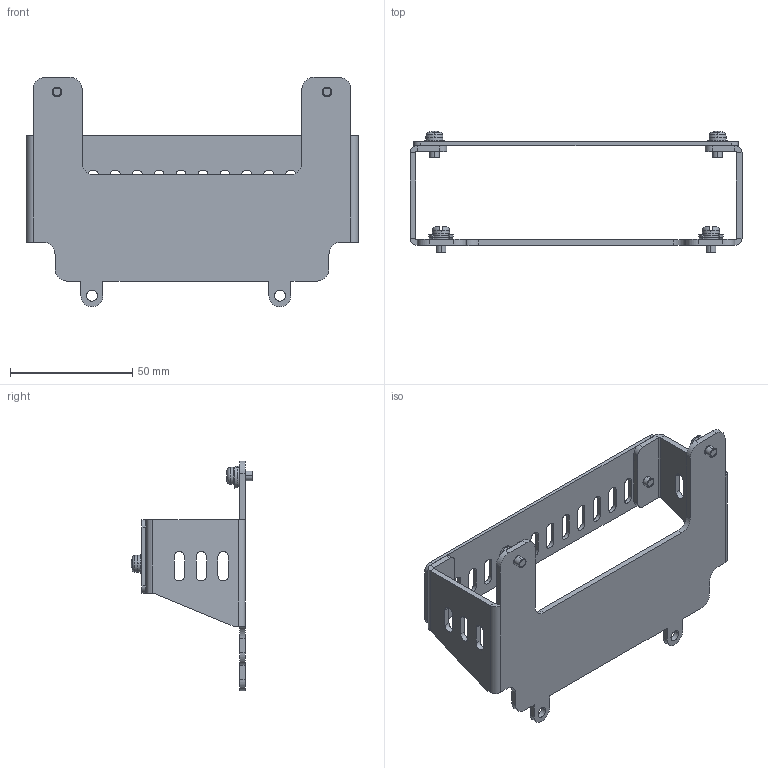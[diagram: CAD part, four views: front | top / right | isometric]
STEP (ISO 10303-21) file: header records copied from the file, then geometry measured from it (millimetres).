
FILE_DESCRIPTION((''),'2;1');
FILE_NAME('ZHZ-GA50V3_ASM','2020-10-19T',('anm'),('YASKAWA ELECTRIC CORCORATION'),'PRO/ENGINEER BY PARAMETRIC TECHNOLOGY CORPORATION, 2015440','PRO/ENGINEER BY PARAMETRIC TECHNOLOGY CORPORATION, 2015440','');
FILE_SCHEMA(('CONFIG_CONTROL_DESIGN'));
Length unit declared in the file: millimetre
Products named in the file (6): 400-125-060; 400-127-197; MS15_M4X8; SCAT41077-2; SCAT41279-1; ZHZ-GA50V3_ASM
Assembly tree (8 placements, depth 2):
  ZHZ-GA50V3_ASM
    400-125-060
    400-127-197
    MS15_M4X8  x2
    SCAT41077-2  x2
    SCAT41279-1  x2
Bounding box: 136 x 49.8 x 94 mm (x, y, z)
Volume: 30150.1 mm3; surface area: 33097.6 mm2
Topology: 8 solids, 20 shells, 409 faces, 1047 edges, 686 vertices
Faces by surface type: plane 215, cylinder 164, torus 20, cone 6, sphere 4
Entity records: 10266 total; most frequent: CARTESIAN_POINT 1870, DIRECTION 1787, ORIENTED_EDGE 1638, EDGE_CURVE 835, AXIS2_PLACEMENT_3D 635, VERTEX_POINT 547, VECTOR 517, LINE 517
